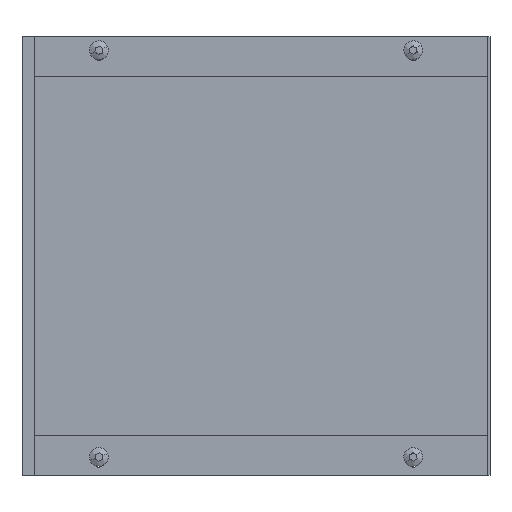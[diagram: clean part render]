
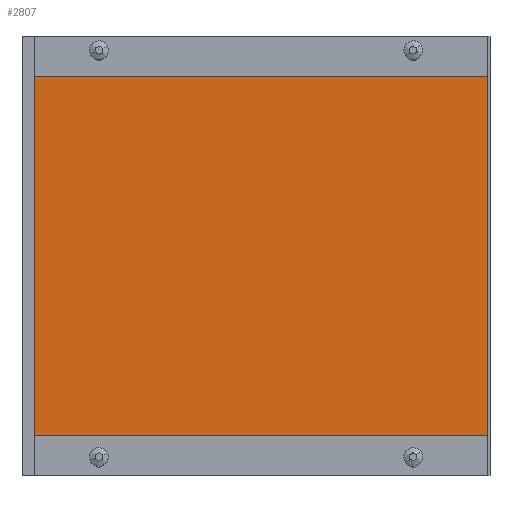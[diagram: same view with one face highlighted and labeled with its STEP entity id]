
A CAD part, front view. The second image highlights one B-rep face of the part: STEP entity #2807.
In plain terms, the highlighted planar face has unit normal (0, -1, 0).
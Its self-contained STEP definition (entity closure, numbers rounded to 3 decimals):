
#7 = EDGE_CURVE ( 'NONE', #2054, #587, #3087, .T. ) ;
#264 = VECTOR ( 'NONE', #645, 1000. ) ;
#394 = CARTESIAN_POINT ( 'NONE',  ( 288.6, 61.1, 254. ) ) ;
#437 = AXIS2_PLACEMENT_3D ( 'NONE', #3383, #3116, #720 ) ;
#453 = DIRECTION ( 'NONE',  ( 0., 0., -1. ) ) ;
#587 = VERTEX_POINT ( 'NONE', #2554 ) ;
#645 = DIRECTION ( 'NONE',  ( -1., 0., 0. ) ) ;
#720 = DIRECTION ( 'NONE',  ( 0., 0., 1. ) ) ;
#747 = CARTESIAN_POINT ( 'NONE',  ( -8., 61.1, 25. ) ) ;
#773 = VECTOR ( 'NONE', #453, 1000. ) ;
#1016 = ORIENTED_EDGE ( 'NONE', *, *, #3136, .T. ) ;
#1211 = ORIENTED_EDGE ( 'NONE', *, *, #2757, .T. ) ;
#1258 = ORIENTED_EDGE ( 'NONE', *, *, #1298, .T. ) ;
#1298 = EDGE_CURVE ( 'NONE', #2054, #1899, #3456, .T. ) ;
#1505 = DIRECTION ( 'NONE',  ( -1., 0., 0. ) ) ;
#1558 = CARTESIAN_POINT ( 'NONE',  ( 288.6, 61.1, 25. ) ) ;
#1561 = CARTESIAN_POINT ( 'NONE',  ( -6.6, 61.1, 254. ) ) ;
#1700 = VERTEX_POINT ( 'NONE', #1561 ) ;
#1717 = CARTESIAN_POINT ( 'NONE',  ( 0., 61.1, 254. ) ) ;
#1778 = EDGE_LOOP ( 'NONE', ( #1016, #1211, #3159, #1258 ) ) ;
#1823 = PLANE ( 'NONE',  #437 ) ;
#1837 = CARTESIAN_POINT ( 'NONE',  ( -6.6, 61.1, 279. ) ) ;
#1899 = VERTEX_POINT ( 'NONE', #394 ) ;
#2033 = DIRECTION ( 'NONE',  ( 0., 0., 1. ) ) ;
#2054 = VERTEX_POINT ( 'NONE', #1558 ) ;
#2418 = VECTOR ( 'NONE', #2033, 1000. ) ;
#2554 = CARTESIAN_POINT ( 'NONE',  ( -6.6, 61.1, 25. ) ) ;
#2602 = FACE_OUTER_BOUND ( 'NONE', #1778, .T. ) ;
#2633 = LINE ( 'NONE', #1837, #773 ) ;
#2757 = EDGE_CURVE ( 'NONE', #1700, #587, #2633, .T. ) ;
#2807 = ADVANCED_FACE ( 'NONE', ( #2602 ), #1823, .F. ) ;
#2816 = VECTOR ( 'NONE', #1505, 1000. ) ;
#3026 = LINE ( 'NONE', #1717, #264 ) ;
#3087 = LINE ( 'NONE', #747, #2816 ) ;
#3101 = CARTESIAN_POINT ( 'NONE',  ( 288.6, 61.1, 279. ) ) ;
#3116 = DIRECTION ( 'NONE',  ( 0., 1., 0. ) ) ;
#3136 = EDGE_CURVE ( 'NONE', #1899, #1700, #3026, .T. ) ;
#3159 = ORIENTED_EDGE ( 'NONE', *, *, #7, .F. ) ;
#3383 = CARTESIAN_POINT ( 'NONE',  ( -8., 61.1, 279. ) ) ;
#3456 = LINE ( 'NONE', #3101, #2418 ) ;
